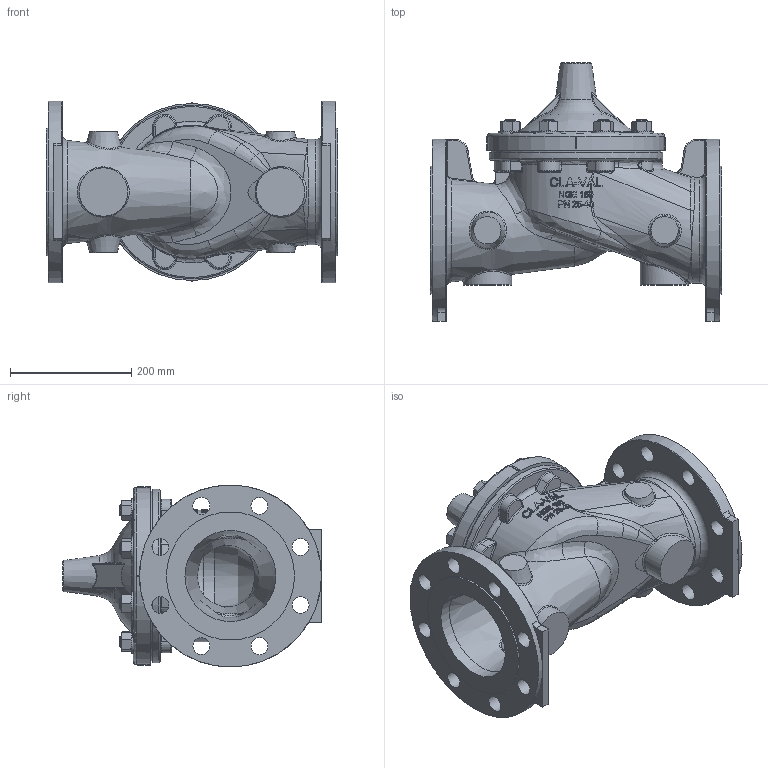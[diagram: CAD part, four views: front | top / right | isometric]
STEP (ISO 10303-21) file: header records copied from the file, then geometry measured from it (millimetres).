
FILE_DESCRIPTION(/* description */ (''),/* implementation_level */ '2;1');
FILE_NAME(/* name */ 'G:\Doc_Liberes\SymbolesCAD\Modeles_3D\FichierSTP\VanneDeBase\NGE150-40RF.stp',/* time_stamp */ '2023-08-18T11:07:16+02:00',/* author */ ('theo'),/* organization */ (''),/* preprocessor_version */ 'ST-DEVELOPER v18.1',/* originating_system */ 'Autodesk Inventor 2022',/* authorisation */ '');
FILE_SCHEMA (('AUTOMOTIVE_DESIGN { 1 0 10303 214 3 1 1 }'));
Products named in the file (1): NGE150_40_Simplifier_1
Bounding box: 480 x 426.78 x 300 mm (x, y, z)
Volume: 8732300.3 mm3; surface area: 1114188.9 mm2
Topology: 1 solids, 1 shells, 1507 faces, 3915 edges, 2466 vertices
Faces by surface type: plane 619, bspline 388, cone 245, cylinder 175, torus 78, sphere 2
Full cylindrical faces by diameter (mm): 19.05 x16, 22 x1, 28 x16, 37.313 x8, 50.8 x1, 80 x2, 130 x1, 133.6 x2, 150 x2, 211 x2, 279.1 x1, 286 x1, 300 x2
Entity records: 60868 total; most frequent: CARTESIAN_POINT 26839, ORIENTED_EDGE 7792, DIRECTION 6120, EDGE_CURVE 3896, VERTEX_POINT 2466, AXIS2_PLACEMENT_3D 2391, EDGE_LOOP 1632, FACE_OUTER_BOUND 1507
